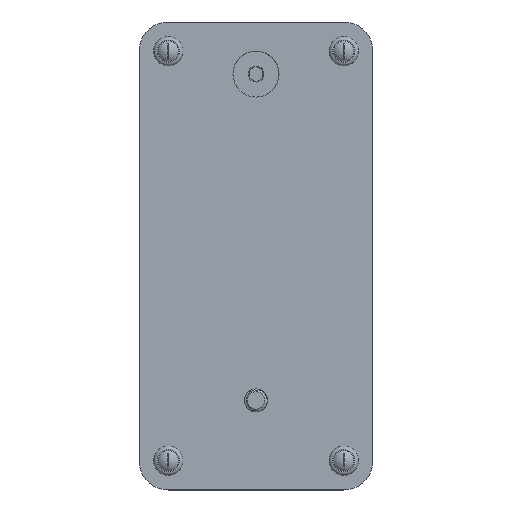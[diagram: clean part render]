
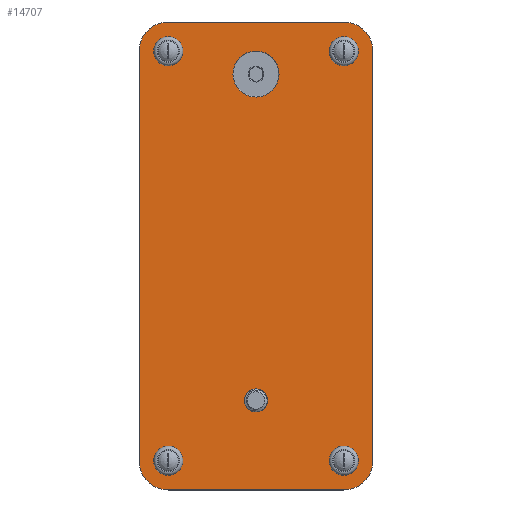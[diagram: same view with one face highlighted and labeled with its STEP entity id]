
A CAD part, top view. The second image highlights one B-rep face of the part: STEP entity #14707.
In plain terms, the highlighted planar face has unit normal (0, 0, 1).
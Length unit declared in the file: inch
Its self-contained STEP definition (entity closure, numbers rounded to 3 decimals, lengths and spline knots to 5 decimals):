
#164=FACE_BOUND('',#2818,.T.);
#165=FACE_BOUND('',#2819,.T.);
#166=FACE_BOUND('',#2820,.T.);
#167=FACE_BOUND('',#2821,.T.);
#168=FACE_BOUND('',#2822,.T.);
#169=FACE_BOUND('',#2823,.T.);
#1168=PLANE('',#15496);
#1959=FACE_OUTER_BOUND('',#2817,.T.);
#2817=EDGE_LOOP('',(#13427,#13428,#13429,#13430,#13431,#13432,#13433,#13434));
#2818=EDGE_LOOP('',(#13435));
#2819=EDGE_LOOP('',(#13436));
#2820=EDGE_LOOP('',(#13437));
#2821=EDGE_LOOP('',(#13438));
#2822=EDGE_LOOP('',(#13439,#13440));
#2823=EDGE_LOOP('',(#13441,#13442));
#4498=LINE('',#24058,#6149);
#4501=LINE('',#24068,#6152);
#4508=LINE('',#24097,#6159);
#4509=LINE('',#24099,#6160);
#6149=VECTOR('',#18390,0.3937);
#6152=VECTOR('',#18401,0.3937);
#6159=VECTOR('',#18436,0.3937);
#6160=VECTOR('',#18439,0.3937);
#6244=CIRCLE('',#14901,0.052);
#6247=CIRCLE('',#14905,0.052);
#6250=CIRCLE('',#14909,0.052);
#6253=CIRCLE('',#14913,0.052);
#6264=CIRCLE('',#15475,0.5);
#6265=CIRCLE('',#15479,0.5);
#6266=CIRCLE('',#15482,0.5);
#6267=CIRCLE('',#15484,0.5);
#6268=CIRCLE('',#15486,0.165);
#6269=CIRCLE('',#15487,0.165);
#6270=CIRCLE('',#15489,0.3935);
#6271=CIRCLE('',#15490,0.3935);
#6341=VERTEX_POINT('',#18876);
#6344=VERTEX_POINT('',#18884);
#6347=VERTEX_POINT('',#18892);
#6350=VERTEX_POINT('',#18900);
#7539=VERTEX_POINT('',#24050);
#7540=VERTEX_POINT('',#24051);
#7541=VERTEX_POINT('',#24056);
#7542=VERTEX_POINT('',#24061);
#7543=VERTEX_POINT('',#24062);
#7544=VERTEX_POINT('',#24067);
#7545=VERTEX_POINT('',#24071);
#7546=VERTEX_POINT('',#24075);
#7547=VERTEX_POINT('',#24079);
#7548=VERTEX_POINT('',#24080);
#7549=VERTEX_POINT('',#24085);
#7550=VERTEX_POINT('',#24086);
#7727=EDGE_CURVE('',#6341,#6341,#6244,.T.);
#7731=EDGE_CURVE('',#6344,#6344,#6247,.T.);
#7735=EDGE_CURVE('',#6347,#6347,#6250,.T.);
#7739=EDGE_CURVE('',#6350,#6350,#6253,.T.);
#9517=EDGE_CURVE('',#7539,#7540,#6264,.T.);
#9521=EDGE_CURVE('',#7539,#7541,#4498,.T.);
#9522=EDGE_CURVE('',#7542,#7543,#6265,.T.);
#9525=EDGE_CURVE('',#7544,#7543,#4501,.T.);
#9527=EDGE_CURVE('',#7544,#7545,#6266,.T.);
#9529=EDGE_CURVE('',#7546,#7541,#6267,.T.);
#9531=EDGE_CURVE('',#7547,#7548,#6268,.T.);
#9532=EDGE_CURVE('',#7548,#7547,#6269,.T.);
#9534=EDGE_CURVE('',#7549,#7550,#6270,.T.);
#9535=EDGE_CURVE('',#7550,#7549,#6271,.T.);
#9540=EDGE_CURVE('',#7546,#7545,#4508,.T.);
#9541=EDGE_CURVE('',#7542,#7540,#4509,.T.);
#13427=ORIENTED_EDGE('',*,*,#9517,.F.);
#13428=ORIENTED_EDGE('',*,*,#9521,.T.);
#13429=ORIENTED_EDGE('',*,*,#9529,.F.);
#13430=ORIENTED_EDGE('',*,*,#9540,.T.);
#13431=ORIENTED_EDGE('',*,*,#9527,.F.);
#13432=ORIENTED_EDGE('',*,*,#9525,.T.);
#13433=ORIENTED_EDGE('',*,*,#9522,.F.);
#13434=ORIENTED_EDGE('',*,*,#9541,.T.);
#13435=ORIENTED_EDGE('',*,*,#7727,.T.);
#13436=ORIENTED_EDGE('',*,*,#7731,.T.);
#13437=ORIENTED_EDGE('',*,*,#7735,.T.);
#13438=ORIENTED_EDGE('',*,*,#7739,.T.);
#13439=ORIENTED_EDGE('',*,*,#9531,.T.);
#13440=ORIENTED_EDGE('',*,*,#9532,.T.);
#13441=ORIENTED_EDGE('',*,*,#9534,.T.);
#13442=ORIENTED_EDGE('',*,*,#9535,.T.);
#14707=ADVANCED_FACE('',(#1959,#164,#165,#166,#167,#168,#169),#1168,.T.);
#14901=AXIS2_PLACEMENT_3D('',#18878,#15681,#15682);
#14905=AXIS2_PLACEMENT_3D('',#18886,#15690,#15691);
#14909=AXIS2_PLACEMENT_3D('',#18894,#15699,#15700);
#14913=AXIS2_PLACEMENT_3D('',#18902,#15708,#15709);
#15475=AXIS2_PLACEMENT_3D('',#24052,#18383,#18384);
#15479=AXIS2_PLACEMENT_3D('',#24063,#18395,#18396);
#15482=AXIS2_PLACEMENT_3D('',#24072,#18405,#18406);
#15484=AXIS2_PLACEMENT_3D('',#24076,#18410,#18411);
#15486=AXIS2_PLACEMENT_3D('',#24081,#18415,#18416);
#15487=AXIS2_PLACEMENT_3D('',#24082,#18417,#18418);
#15489=AXIS2_PLACEMENT_3D('',#24087,#18422,#18423);
#15490=AXIS2_PLACEMENT_3D('',#24088,#18424,#18425);
#15496=AXIS2_PLACEMENT_3D('',#24100,#18440,#18441);
#15681=DIRECTION('center_axis',(0.,0.,-1.));
#15682=DIRECTION('ref_axis',(-1.,0.,0.));
#15690=DIRECTION('center_axis',(0.,0.,-1.));
#15691=DIRECTION('ref_axis',(-1.,0.,0.));
#15699=DIRECTION('center_axis',(0.,0.,-1.));
#15700=DIRECTION('ref_axis',(-1.,0.,0.));
#15708=DIRECTION('center_axis',(0.,0.,-1.));
#15709=DIRECTION('ref_axis',(-1.,0.,0.));
#18383=DIRECTION('center_axis',(0.,0.,-1.));
#18384=DIRECTION('ref_axis',(0.707,-0.707,0.));
#18390=DIRECTION('',(0.,1.,0.));
#18395=DIRECTION('center_axis',(0.,0.,-1.));
#18396=DIRECTION('ref_axis',(-0.707,-0.707,0.));
#18401=DIRECTION('',(0.,-1.,0.));
#18405=DIRECTION('center_axis',(0.,0.,-1.));
#18406=DIRECTION('ref_axis',(-0.707,0.707,0.));
#18410=DIRECTION('center_axis',(0.,0.,-1.));
#18411=DIRECTION('ref_axis',(0.707,0.707,0.));
#18415=DIRECTION('center_axis',(0.,0.,-1.));
#18416=DIRECTION('ref_axis',(1.,0.,0.));
#18417=DIRECTION('center_axis',(0.,0.,-1.));
#18418=DIRECTION('ref_axis',(1.,0.,0.));
#18422=DIRECTION('center_axis',(0.,0.,-1.));
#18423=DIRECTION('ref_axis',(1.,0.,0.));
#18424=DIRECTION('center_axis',(0.,0.,-1.));
#18425=DIRECTION('ref_axis',(1.,0.,0.));
#18436=DIRECTION('',(-1.,0.,0.));
#18439=DIRECTION('',(1.,0.,0.));
#18440=DIRECTION('center_axis',(0.,0.,1.));
#18441=DIRECTION('ref_axis',(1.,0.,0.));
#18876=CARTESIAN_POINT('',(2.427,-3.0625,0.25));
#18878=CARTESIAN_POINT('Origin',(2.375,-3.0625,0.25));
#18884=CARTESIAN_POINT('',(-0.573,3.9375,0.25));
#18886=CARTESIAN_POINT('Origin',(-0.625,3.9375,0.25));
#18892=CARTESIAN_POINT('',(2.427,3.9375,0.25));
#18894=CARTESIAN_POINT('Origin',(2.375,3.9375,0.25));
#18900=CARTESIAN_POINT('',(-0.573,-3.0625,0.25));
#18902=CARTESIAN_POINT('Origin',(-0.625,-3.0625,0.25));
#24050=CARTESIAN_POINT('',(2.875,-3.0625,0.25));
#24051=CARTESIAN_POINT('',(2.375,-3.5625,0.25));
#24052=CARTESIAN_POINT('Origin',(2.375,-3.0625,0.25));
#24056=CARTESIAN_POINT('',(2.875,3.9375,0.25));
#24058=CARTESIAN_POINT('',(2.875,-3.5625,0.25));
#24061=CARTESIAN_POINT('',(-0.625,-3.5625,0.25));
#24062=CARTESIAN_POINT('',(-1.125,-3.0625,0.25));
#24063=CARTESIAN_POINT('Origin',(-0.625,-3.0625,0.25));
#24067=CARTESIAN_POINT('',(-1.125,3.9375,0.25));
#24068=CARTESIAN_POINT('',(-1.125,4.4375,0.25));
#24071=CARTESIAN_POINT('',(-0.625,4.4375,0.25));
#24072=CARTESIAN_POINT('Origin',(-0.625,3.9375,0.25));
#24075=CARTESIAN_POINT('',(2.375,4.4375,0.25));
#24076=CARTESIAN_POINT('Origin',(2.375,3.9375,0.25));
#24079=CARTESIAN_POINT('',(1.04,-2.0325,0.25));
#24080=CARTESIAN_POINT('',(0.71,-2.0325,0.25));
#24081=CARTESIAN_POINT('Origin',(0.875,-2.0325,0.25));
#24082=CARTESIAN_POINT('Origin',(0.875,-2.0325,0.25));
#24085=CARTESIAN_POINT('',(1.2685,3.5475,0.25));
#24086=CARTESIAN_POINT('',(0.4815,3.5475,0.25));
#24087=CARTESIAN_POINT('Origin',(0.875,3.5475,0.25));
#24088=CARTESIAN_POINT('Origin',(0.875,3.5475,0.25));
#24097=CARTESIAN_POINT('',(2.875,4.4375,0.25));
#24099=CARTESIAN_POINT('',(-1.125,-3.5625,0.25));
#24100=CARTESIAN_POINT('Origin',(0.875,0.4375,0.25));
